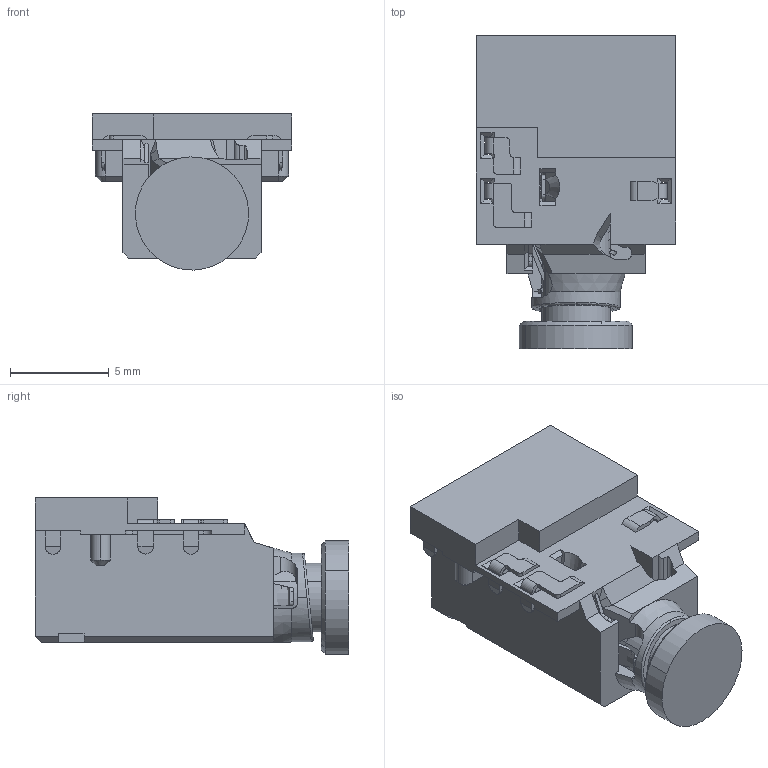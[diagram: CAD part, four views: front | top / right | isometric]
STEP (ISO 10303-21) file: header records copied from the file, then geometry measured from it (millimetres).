
FILE_DESCRIPTION((''),'2;1');
FILE_NAME('_3_20-3D_220718__ASM','2022-07-18T',('A'),(''),'PRO/ENGINEER BY PARAMETRIC TECHNOLOGY CORPORATION, 2011310','PRO/ENGINEER BY PARAMETRIC TECHNOLOGY CORPORATION, 2011310','');
FILE_SCHEMA(('CONFIG_CONTROL_DESIGN'));
Length unit declared in the file: millimetre
Products named in the file (4): 3_5MM_PLUG; __3_20____; __3_20-3D__________220718__ASM; _3_20-3D_220718__ASM
Assembly tree (3 placements, depth 3):
  _3_20-3D_220718__ASM
    __3_20-3D__________220718__ASM
      3_5MM_PLUG
      __3_20____
Bounding box: 10.1 x 15.9 x 7.92 mm (x, y, z)
Volume: 601.2 mm3; surface area: 1213.6 mm2
Topology: 2 solids, 3 shells, 698 faces, 2016 edges, 1323 vertices
Faces by surface type: plane 456, cylinder 173, bspline 30, cone 21, torus 12, sphere 6
Entity records: 24341 total; most frequent: CARTESIAN_POINT 6069, ORIENTED_EDGE 3894, DIRECTION 3550, EDGE_CURVE 1947, VECTOR 1440, LINE 1440, VERTEX_POINT 1251, AXIS2_PLACEMENT_3D 1055
